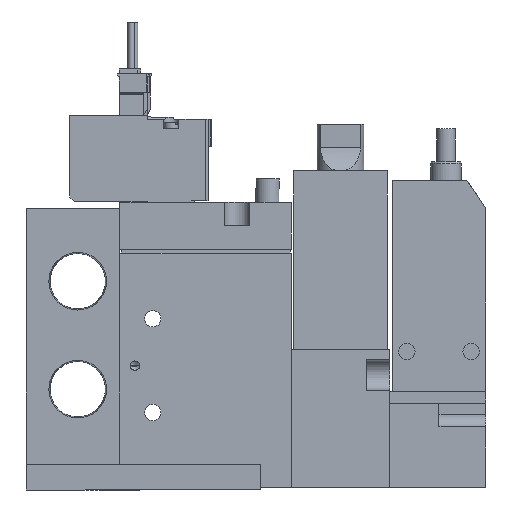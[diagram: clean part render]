
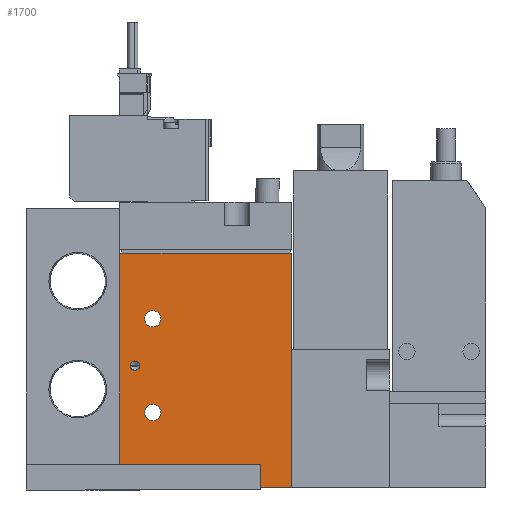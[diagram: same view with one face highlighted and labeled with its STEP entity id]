
A CAD part, left-side view. The second image highlights one B-rep face of the part: STEP entity #1700.
In plain terms, the highlighted planar face has unit normal (-1, 0, 0) as drawn and (1, 0, 0) by its records, which use the part's own axes.
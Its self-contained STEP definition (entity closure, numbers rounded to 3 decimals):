
#1700=ADVANCED_FACE('',(#2589,#2590,#2591,#2592),#2593,.F.);
#2589=FACE_BOUND('',#4491,.T.);
#2590=FACE_BOUND('',#4492,.T.);
#2591=FACE_BOUND('',#4493,.T.);
#2592=FACE_OUTER_BOUND('',#4494,.T.);
#2593=PLANE('',#4495);
#4491=EDGE_LOOP('',(#6556));
#4492=EDGE_LOOP('',(#6557));
#4493=EDGE_LOOP('',(#6558));
#4494=EDGE_LOOP('',(#6559,#6560,#6561,#6562));
#4495=AXIS2_PLACEMENT_3D('',#6563,#6564,#6565);
#6556=ORIENTED_EDGE('',*,*,#12795,.F.);
#6557=ORIENTED_EDGE('',*,*,#12794,.T.);
#6558=ORIENTED_EDGE('',*,*,#12791,.T.);
#6559=ORIENTED_EDGE('',*,*,#12788,.T.);
#6560=ORIENTED_EDGE('',*,*,#12796,.F.);
#6561=ORIENTED_EDGE('',*,*,#12783,.F.);
#6562=ORIENTED_EDGE('',*,*,#12797,.T.);
#6563=CARTESIAN_POINT('',(8.5,-19.444,50.0));
#6564=DIRECTION('',(-1.0,0.0,0.0));
#6565=DIRECTION('',(0.0,0.0,1.0));
#12783=EDGE_CURVE('',#14817,#14819,#14820,.T.);
#12788=EDGE_CURVE('',#14829,#14827,#14830,.T.);
#12791=EDGE_CURVE('',#14834,#14834,#14835,.T.);
#12794=EDGE_CURVE('',#14838,#14838,#14839,.T.);
#12795=EDGE_CURVE('',#14840,#14840,#14841,.T.);
#12796=EDGE_CURVE('',#14819,#14827,#14842,.T.);
#12797=EDGE_CURVE('',#14817,#14829,#14843,.T.);
#14817=VERTEX_POINT('',#18272);
#14819=VERTEX_POINT('',#18275);
#14820=LINE('',#18276,#18277);
#14827=VERTEX_POINT('',#18286);
#14829=VERTEX_POINT('',#18289);
#14830=LINE('',#18290,#18291);
#14834=VERTEX_POINT('',#18296);
#14835=CIRCLE('',#18297,1.75);
#14838=VERTEX_POINT('',#18300);
#14839=CIRCLE('',#18301,1.75);
#14840=VERTEX_POINT('',#18302);
#14841=CIRCLE('',#18303,1.0);
#14842=LINE('',#18304,#18305);
#14843=LINE('',#18306,#18307);
#18272=CARTESIAN_POINT('',(8.5,-19.444,50.0));
#18275=CARTESIAN_POINT('',(8.5,17.056,50.0));
#18276=CARTESIAN_POINT('',(8.5,-19.444,50.0));
#18277=VECTOR('',#23226,1.0);
#18286=CARTESIAN_POINT('',(8.5,17.056,0.0));
#18289=CARTESIAN_POINT('',(8.5,-19.444,0.0));
#18290=CARTESIAN_POINT('',(8.5,-19.444,0.0));
#18291=VECTOR('',#23233,1.0);
#18296=CARTESIAN_POINT('',(8.5,-10.694,16.0));
#18297=AXIS2_PLACEMENT_3D('',#23238,#23239,#23240);
#18300=CARTESIAN_POINT('',(8.5,-10.694,36.0));
#18301=AXIS2_PLACEMENT_3D('',#23244,#23245,#23246);
#18302=CARTESIAN_POINT('',(8.5,-17.244,26.0));
#18303=AXIS2_PLACEMENT_3D('',#23247,#23248,#23249);
#18304=CARTESIAN_POINT('',(8.5,17.056,50.0));
#18305=VECTOR('',#23250,1.0);
#18306=CARTESIAN_POINT('',(8.5,-19.444,50.0));
#18307=VECTOR('',#23251,1.0);
#23226=DIRECTION('',(0.0,1.0,0.0));
#23233=DIRECTION('',(0.0,1.0,0.0));
#23238=CARTESIAN_POINT('',(8.5,-12.444,16.0));
#23239=DIRECTION('',(-1.0,0.0,0.0));
#23240=DIRECTION('',(0.0,1.0,0.0));
#23244=CARTESIAN_POINT('',(8.5,-12.444,36.0));
#23245=DIRECTION('',(-1.0,0.0,0.0));
#23246=DIRECTION('',(0.0,1.0,0.0));
#23247=CARTESIAN_POINT('',(8.5,-16.244,26.0));
#23248=DIRECTION('',(1.0,0.,0.0));
#23249=DIRECTION('',(0.,-1.0,0.0));
#23250=DIRECTION('',(0.0,0.0,-1.0));
#23251=DIRECTION('',(0.0,0.0,-1.0));
